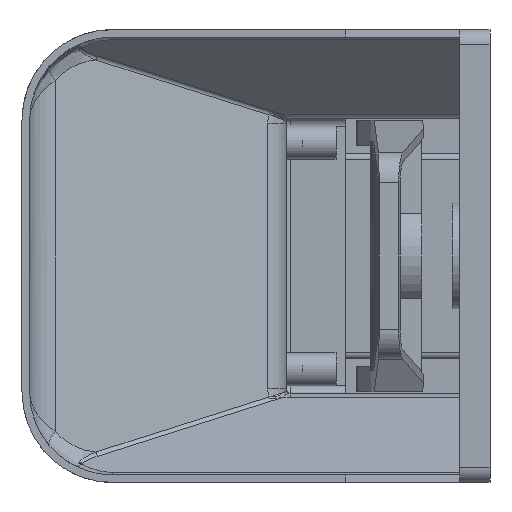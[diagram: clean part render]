
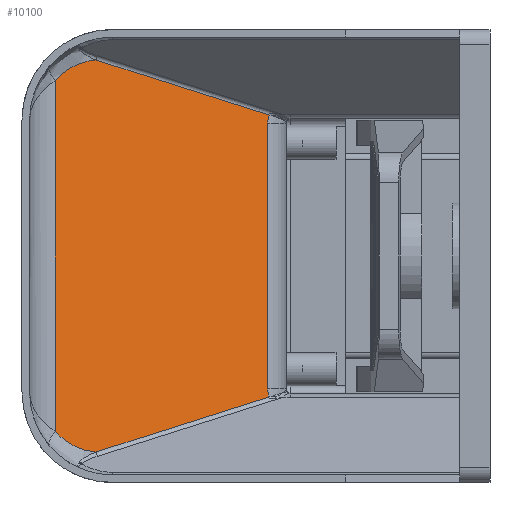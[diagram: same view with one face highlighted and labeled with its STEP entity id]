
A CAD part, left-side view. The second image highlights one B-rep face of the part: STEP entity #10100.
In plain terms, the highlighted planar face has unit normal (-0.858, -0.514, 0).
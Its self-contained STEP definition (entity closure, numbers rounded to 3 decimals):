
#687 = CARTESIAN_POINT ( 'NONE',  ( -44.241, 130.542, -62.076 ) ) ;
#897 = VECTOR ( 'NONE', #15051, 1000. ) ;
#1141 = LINE ( 'NONE', #11802, #897 ) ;
#1220 = EDGE_CURVE ( 'NONE', #12299, #14999, #6892, .T. ) ;
#1410 = CARTESIAN_POINT ( 'NONE',  ( -44.241, 130.542, 62.076 ) ) ;
#1701 = FACE_OUTER_BOUND ( 'NONE', #4596, .T. ) ;
#1810 = VERTEX_POINT ( 'NONE', #10565 ) ;
#2079 = CARTESIAN_POINT ( 'NONE',  ( -4.002, 63.478, -45.841 ) ) ;
#2739 =( BOUNDED_CURVE ( )  B_SPLINE_CURVE ( 3, ( #3487, #6970, #2079, #11660 ),
 .UNSPECIFIED., .F., .T. ) 
 B_SPLINE_CURVE_WITH_KNOTS ( ( 4, 4 ),
 ( 3.142, 3.339 ),
 .UNSPECIFIED. ) 
 CURVE ( )  GEOMETRIC_REPRESENTATION_ITEM ( )  RATIONAL_B_SPLINE_CURVE ( ( 1., 0.997, 0.997, 1. ) ) 
 REPRESENTATION_ITEM ( '' )  );
#2755 = VERTEX_POINT ( 'NONE', #15060 ) ;
#2937 = CARTESIAN_POINT ( 'NONE',  ( -41.408, 125.822, -64.483 ) ) ;
#2977 = CARTESIAN_POINT ( 'NONE',  ( -4.002, 63.478, 45.841 ) ) ;
#3018 = DIRECTION ( 'NONE',  ( 0.514, -0.857, 0. ) ) ;
#3088 = CARTESIAN_POINT ( 'NONE',  ( -38.24, 120.541, -64.929 ) ) ;
#3089 = AXIS2_PLACEMENT_3D ( 'NONE', #14753, #9982, #3018 ) ;
#3298 = ORIENTED_EDGE ( 'NONE', *, *, #6069, .F. ) ;
#3344 = ORIENTED_EDGE ( 'NONE', *, *, #13726, .F. ) ;
#3487 = CARTESIAN_POINT ( 'NONE',  ( -4.057, 63.569, -44. ) ) ;
#3640 = CARTESIAN_POINT ( 'NONE',  ( -46.318, 134.004, -75. ) ) ;
#4596 = EDGE_LOOP ( 'NONE', ( #7267, #3298, #13362, #7876, #11487, #3344, #6567, #11065 ) ) ;
#4646 =( BOUNDED_CURVE ( )  B_SPLINE_CURVE ( 3, ( #12220, #1410, #10911, #7612 ),
 .UNSPECIFIED., .F., .F. ) 
 B_SPLINE_CURVE_WITH_KNOTS ( ( 4, 4 ),
 ( 0.712, 1.487 ),
 .UNSPECIFIED. ) 
 CURVE ( )  GEOMETRIC_REPRESENTATION_ITEM ( )  RATIONAL_B_SPLINE_CURVE ( ( 1., 0.951, 0.951, 1. ) ) 
 REPRESENTATION_ITEM ( '' )  );
#4910 = CARTESIAN_POINT ( 'NONE',  ( -46.318, 134.004, -58.063 ) ) ;
#5224 = VECTOR ( 'NONE', #5649, 1000. ) ;
#5267 = CARTESIAN_POINT ( 'NONE',  ( -46.318, 134.004, -58.063 ) ) ;
#5649 = DIRECTION ( 'NONE',  ( 0.496, -0.827, -0.263 ) ) ;
#5812 = DIRECTION ( 'NONE',  ( 0., 0., 1. ) ) ;
#5889 = CARTESIAN_POINT ( 'NONE',  ( -3.894, 63.297, 46.746 ) ) ;
#6069 = EDGE_CURVE ( 'NONE', #1810, #14587, #2739, .T. ) ;
#6293 = EDGE_CURVE ( 'NONE', #8947, #12299, #11310, .T. ) ;
#6567 = ORIENTED_EDGE ( 'NONE', *, *, #1220, .F. ) ;
#6801 = LINE ( 'NONE', #10195, #5224 ) ;
#6884 = CARTESIAN_POINT ( 'NONE',  ( -3.894, 63.297, -46.746 ) ) ;
#6892 = LINE ( 'NONE', #3640, #12359 ) ;
#6970 = CARTESIAN_POINT ( 'NONE',  ( -4.057, 63.569, -44.923 ) ) ;
#7267 = ORIENTED_EDGE ( 'NONE', *, *, #14414, .F. ) ;
#7479 = CARTESIAN_POINT ( 'NONE',  ( -3.894, 63.297, 46.746 ) ) ;
#7612 = CARTESIAN_POINT ( 'NONE',  ( -38.24, 120.541, 64.929 ) ) ;
#7785 = EDGE_CURVE ( 'NONE', #12533, #2755, #10549, .T. ) ;
#7876 = ORIENTED_EDGE ( 'NONE', *, *, #7785, .F. ) ;
#7947 = CARTESIAN_POINT ( 'NONE',  ( -38.24, 120.541, -64.929 ) ) ;
#8947 = VERTEX_POINT ( 'NONE', #7947 ) ;
#9982 = DIRECTION ( 'NONE',  ( -0.857, -0.514, 0. ) ) ;
#10100 = ADVANCED_FACE ( 'NONE', ( #1701 ), #11274, .T. ) ;
#10155 = EDGE_CURVE ( 'NONE', #14658, #12533, #6801, .T. ) ;
#10195 = CARTESIAN_POINT ( 'NONE',  ( -37.1, 118.641, 64.325 ) ) ;
#10400 = CARTESIAN_POINT ( 'NONE',  ( -46.318, 134.004, 58.063 ) ) ;
#10549 =( BOUNDED_CURVE ( )  B_SPLINE_CURVE ( 3, ( #7479, #2977, #12237, #13553 ),
 .UNSPECIFIED., .F., .T. ) 
 B_SPLINE_CURVE_WITH_KNOTS ( ( 4, 4 ),
 ( 6.086, 6.283 ),
 .UNSPECIFIED. ) 
 CURVE ( )  GEOMETRIC_REPRESENTATION_ITEM ( )  RATIONAL_B_SPLINE_CURVE ( ( 1., 0.997, 0.997, 1. ) ) 
 REPRESENTATION_ITEM ( '' )  );
#10565 = CARTESIAN_POINT ( 'NONE',  ( -4.057, 63.569, -44. ) ) ;
#10911 = CARTESIAN_POINT ( 'NONE',  ( -41.408, 125.822, 64.483 ) ) ;
#11065 = ORIENTED_EDGE ( 'NONE', *, *, #6293, .F. ) ;
#11274 = PLANE ( 'NONE',  #3089 ) ;
#11310 =( BOUNDED_CURVE ( )  B_SPLINE_CURVE ( 3, ( #3088, #2937, #687, #5267 ),
 .UNSPECIFIED., .F., .T. ) 
 B_SPLINE_CURVE_WITH_KNOTS ( ( 4, 4 ),
 ( 1.655, 2.43 ),
 .UNSPECIFIED. ) 
 CURVE ( )  GEOMETRIC_REPRESENTATION_ITEM ( )  RATIONAL_B_SPLINE_CURVE ( ( 1., 0.951, 0.951, 1. ) ) 
 REPRESENTATION_ITEM ( '' )  );
#11423 = EDGE_CURVE ( 'NONE', #2755, #1810, #12416, .T. ) ;
#11487 = ORIENTED_EDGE ( 'NONE', *, *, #10155, .F. ) ;
#11660 = CARTESIAN_POINT ( 'NONE',  ( -3.894, 63.297, -46.746 ) ) ;
#11802 = CARTESIAN_POINT ( 'NONE',  ( -51.805, 143.149, -72.11 ) ) ;
#12220 = CARTESIAN_POINT ( 'NONE',  ( -46.318, 134.004, 58.063 ) ) ;
#12237 = CARTESIAN_POINT ( 'NONE',  ( -4.057, 63.569, 44.923 ) ) ;
#12299 = VERTEX_POINT ( 'NONE', #4910 ) ;
#12359 = VECTOR ( 'NONE', #5812, 1000. ) ;
#12416 = LINE ( 'NONE', #14591, #12737 ) ;
#12533 = VERTEX_POINT ( 'NONE', #5889 ) ;
#12737 = VECTOR ( 'NONE', #14667, 1000. ) ;
#13275 = CARTESIAN_POINT ( 'NONE',  ( -38.24, 120.541, 64.929 ) ) ;
#13362 = ORIENTED_EDGE ( 'NONE', *, *, #11423, .F. ) ;
#13553 = CARTESIAN_POINT ( 'NONE',  ( -4.057, 63.569, 44. ) ) ;
#13726 = EDGE_CURVE ( 'NONE', #14999, #14658, #4646, .T. ) ;
#14414 = EDGE_CURVE ( 'NONE', #14587, #8947, #1141, .T. ) ;
#14587 = VERTEX_POINT ( 'NONE', #6884 ) ;
#14591 = CARTESIAN_POINT ( 'NONE',  ( -4.057, 63.569, -75. ) ) ;
#14658 = VERTEX_POINT ( 'NONE', #13275 ) ;
#14667 = DIRECTION ( 'NONE',  ( 0., 0., -1. ) ) ;
#14753 = CARTESIAN_POINT ( 'NONE',  ( -1.144, 58.714, -75. ) ) ;
#14999 = VERTEX_POINT ( 'NONE', #10400 ) ;
#15051 = DIRECTION ( 'NONE',  ( -0.496, 0.827, -0.263 ) ) ;
#15060 = CARTESIAN_POINT ( 'NONE',  ( -4.057, 63.569, 44. ) ) ;
